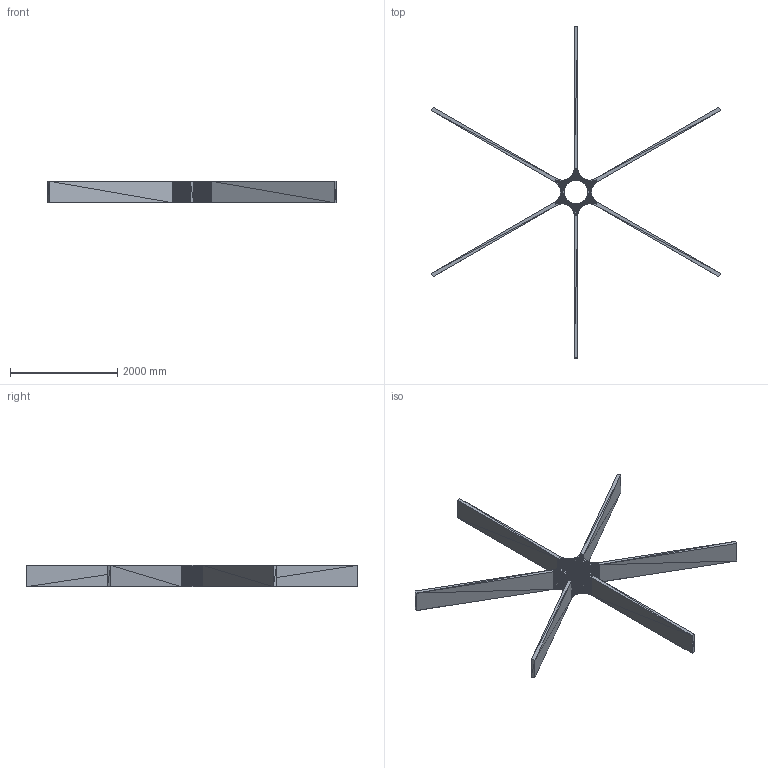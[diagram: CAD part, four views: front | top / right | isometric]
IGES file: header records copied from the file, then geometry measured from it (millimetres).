
Start section: ACIS data in IGES format
Global section: file name: Unknown; native system: ACIS; preprocessor: *IGES writer V5.2; author: Unknown; organization: Unknown; date: 20130411.231355; units: millimetre
Bounding box: 5385.58 x 6178.31 x 400 mm (x, y, z)
Surface area: 17201705.9 mm2 (no closed solid volume)
Topology: 0 solids, 0 shells, 984 faces, 2952 edges, 2952 vertices
Faces by surface type: bspline 984
